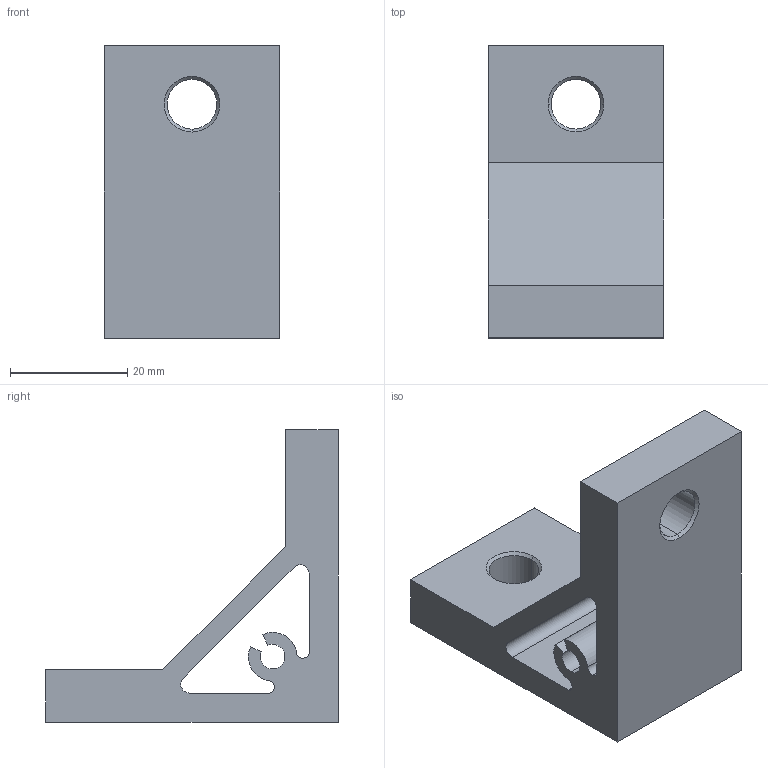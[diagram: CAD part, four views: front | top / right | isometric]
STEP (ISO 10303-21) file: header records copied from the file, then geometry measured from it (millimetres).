
FILE_DESCRIPTION (( 'STEP AP214' ), '1' );
FILE_NAME ('SNSD.30.52.69. Óãëîâîé ñîåäèíèòåëü 50õ50õ30, ïàç 10(A06).STEP', '2015-04-27T08:03:35', ( 'XTreme.ws' ), ( 'XTreme.ws' ), 'SwSTEP 2.0', 'SolidWorks 2014', '' );
FILE_SCHEMA (( 'AUTOMOTIVE_DESIGN' ));
Length unit declared in the file: millimetre
Products named in the file (2): SNSD.30.52.69. Óãëîâîé ñîåäèíèòåëü 50õ50õ30, ïàç 10(A06)
Bounding box: 30 x 50 x 50 mm (x, y, z)
Volume: 23446.2 mm3; surface area: 10429.2 mm2
Topology: 1 solids, 1 shells, 37 faces, 97 edges, 62 vertices
Faces by surface type: cylinder 15, plane 14, cone 8
Entity records: 1239 total; most frequent: DIRECTION 213, CARTESIAN_POINT 198, ORIENTED_EDGE 194, EDGE_CURVE 97, AXIS2_PLACEMENT_3D 77, VERTEX_POINT 62, LINE 59, VECTOR 59
